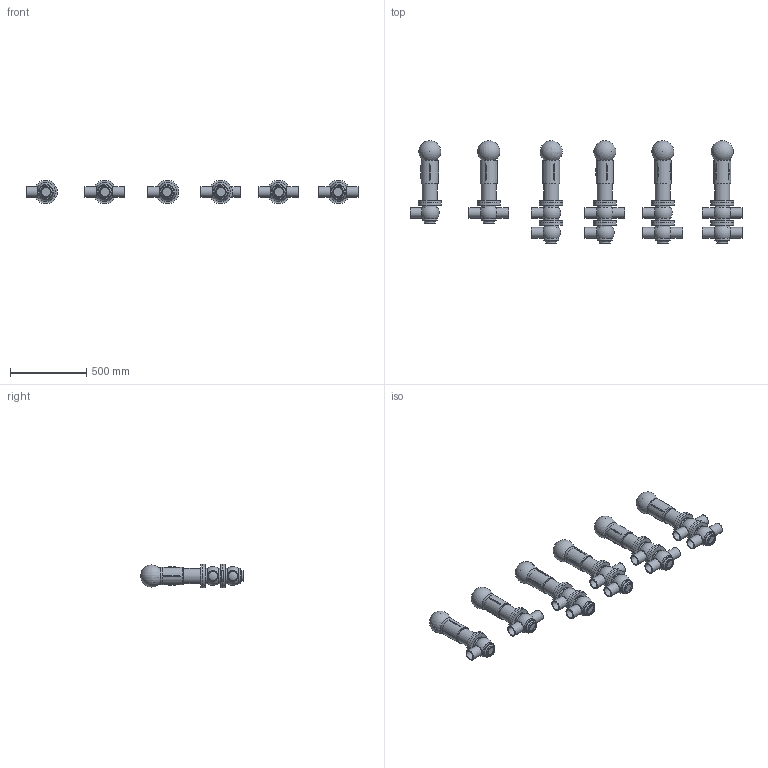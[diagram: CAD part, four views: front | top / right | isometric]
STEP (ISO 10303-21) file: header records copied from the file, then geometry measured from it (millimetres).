
FILE_DESCRIPTION(/* description */ (''),/* implementation_level */ '2;1');
FILE_NAME(/* name */ 'C:\Users\marz-m\Desktop\PDF\BBZQ 3D STEP\BBZQ-DN65-CIL.108.stp',/* time_stamp */ '2018-04-13T15:18:58+02:00',/* author */ ('marz-m'),/* organization */ (''),/* preprocessor_version */ 'ST-DEVELOPER v17',/* originating_system */ 'Autodesk Inventor 2018',/* authorisation */ '');
FILE_SCHEMA (('AUTOMOTIVE_DESIGN { 1 0 10303 214 3 1 1 }'));
Length unit declared in the file: millimetre
Products named in the file (8): BBZQ-DN65-CIL.108; ASSEMBLAGGIO-DN65-CIL108--156; CIL108; SAGOMA-GIOTTO-; COR-INF-L-BBZQ-DN065-SALD; COR-SUP-L-BBZQ-DN065-SALD; COR-SUP-T-BBZQ-DN65; COR-INF-T-BBZQ-DN065-SALD
Assembly tree (28 placements, depth 2):
  BBZQ-DN65-CIL.108
    ASSEMBLAGGIO-DN65-CIL108--156  x6
    COR-INF-L-BBZQ-DN065-SALD  x3
    COR-INF-T-BBZQ-DN065-SALD  x3
    COR-SUP-L-BBZQ-DN065-SALD  x2
    COR-SUP-T-BBZQ-DN65  x2
    CIL108  x6
    SAGOMA-GIOTTO-  x6
Bounding box: 2181.78 x 673.97 x 154 mm (x, y, z)
Volume: 30712094.4 mm3; surface area: 3316675.2 mm2
Topology: 28 solids, 34 shells, 428 faces, 1060 edges, 792 vertices
Faces by surface type: plane 127, cylinder 124, torus 74, cone 72, sphere 31
Full cylindrical faces by diameter (mm): 20 x12, 60 x21, 70 x21, 76 x6, 77 x6, 99 x12, 100 x6, 101 x8, 108.5 x6, 114 x6, 154 x20
Entity records: 4206 total; most frequent: CARTESIAN_POINT 914, DIRECTION 736, ORIENTED_EDGE 544, AXIS2_PLACEMENT_3D 346, EDGE_CURVE 272, VERTEX_POINT 204, CIRCLE 196, EDGE_LOOP 144
